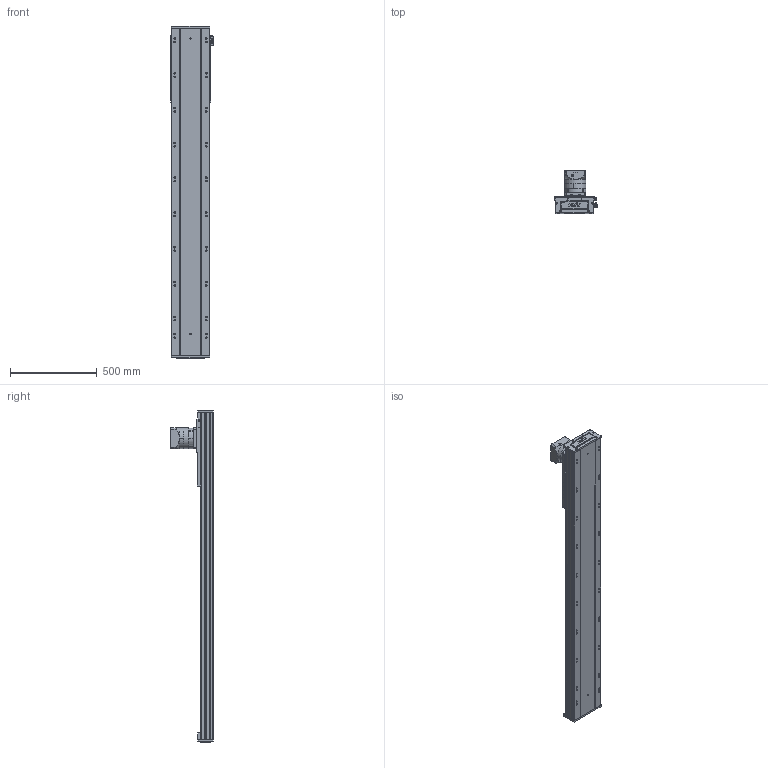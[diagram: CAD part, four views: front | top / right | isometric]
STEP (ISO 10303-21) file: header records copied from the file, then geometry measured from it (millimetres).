
FILE_DESCRIPTION (( 'STEP AP203' ), '1' );
FILE_NAME ('RY220-C-300-UK.SLDASM_1400.step', '2022-08-01T05:59:19', ( '' ), ( '' ), 'SwSTEP 2.0', 'SolidWorks 2016', '' );
FILE_SCHEMA (( 'CONFIG_CONTROL_DESIGN' ));
Length unit declared in the file: millimetre
Products named in the file (10): 滅袉蝶輸ㄗG412隅秶ㄘ; 覜茼ん674; RY220喘沭綴裔啣; RY140直线电机感应器674光电安装座; RY220喘沭俋离覜茼え; RY220-C-300-UK.SLDASM_1400; RY220-齿条模组电机安装板; RY220菁釱MK-300_1400; PF115L1-S2-22-58-110-145-M8; RY220喘沭賑輸
Assembly tree (12 placements, depth 2):
  RY220-C-300-UK.SLDASM_1400
    RY220菁釱MK-300_1400
    RY220喘沭賑輸
    RY220-齿条模组电机安装板
    PF115L1-S2-22-58-110-145-M8
    RY220喘沭綴裔啣  x2
    滅袉蝶輸ㄗG412隅秶ㄘ  x2
    RY140直线电机感应器674光电安装座
    覜茼ん674  x2
    RY220喘沭俋离覜茼え
Bounding box: 247 x 244.5 x 1909 mm (x, y, z)
Volume: 14546786.1 mm3; surface area: 2900842.9 mm2
Topology: 18 solids, 26 shells, 2058 faces, 5525 edges, 3503 vertices
Faces by surface type: cylinder 955, plane 751, cone 190, bspline 162
Entity records: 65221 total; most frequent: CARTESIAN_POINT 17929, DIRECTION 9675, ORIENTED_EDGE 9570, EDGE_CURVE 4785, AXIS2_PLACEMENT_3D 3677, VERTEX_POINT 3129, EDGE_LOOP 2350, LINE 2321
